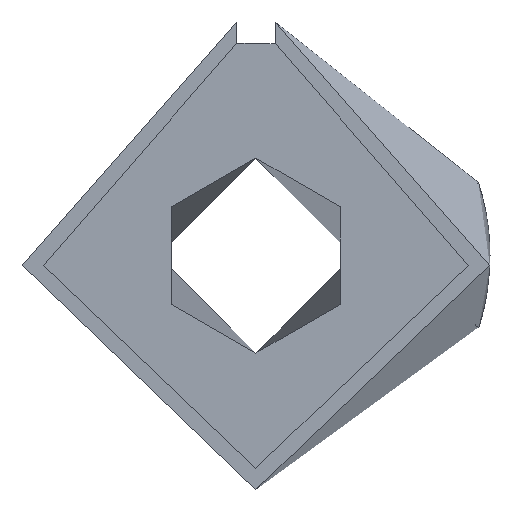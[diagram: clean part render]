
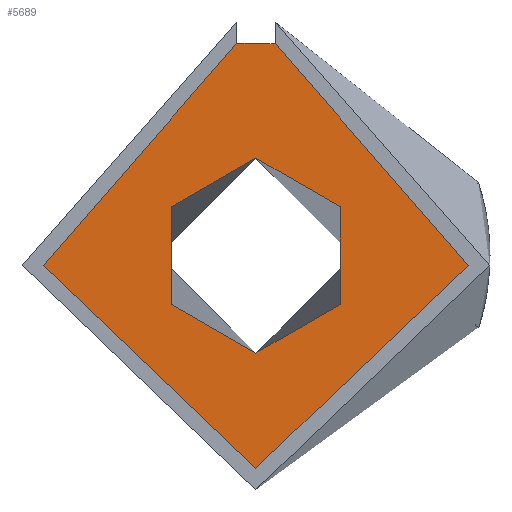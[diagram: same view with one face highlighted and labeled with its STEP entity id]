
A CAD part, left-side view. The second image highlights one B-rep face of the part: STEP entity #5689.
In plain terms, the highlighted planar face has unit normal (-1, 0, 0).
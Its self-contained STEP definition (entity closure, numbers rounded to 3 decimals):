
#128=PLANE('',#6128);
#581=CIRCLE('',#6103,2.5);
#594=CIRCLE('',#6129,5.451);
#595=CIRCLE('',#6130,5.451);
#980=ORIENTED_EDGE('',*,*,#2697,.F.);
#981=ORIENTED_EDGE('',*,*,#2698,.F.);
#982=ORIENTED_EDGE('',*,*,#2662,.T.);
#2662=EDGE_CURVE('',#3527,#3527,#581,.F.);
#2697=EDGE_CURVE('',#3550,#3551,#594,.T.);
#2698=EDGE_CURVE('',#3551,#3550,#595,.T.);
#3527=VERTEX_POINT('',#8753);
#3550=VERTEX_POINT('',#8824);
#3551=VERTEX_POINT('',#8825);
#4889=EDGE_LOOP('',(#980,#981));
#4890=EDGE_LOOP('',(#982));
#5281=FACE_BOUND('',#4889,.T.);
#5282=FACE_BOUND('',#4890,.T.);
#5689=ADVANCED_FACE('',(#5281,#5282),#128,.T.);
#6103=AXIS2_PLACEMENT_3D('',#8752,#6680,#6681);
#6128=AXIS2_PLACEMENT_3D('',#8822,#6752,#6753);
#6129=AXIS2_PLACEMENT_3D('',#8823,#6754,#6755);
#6130=AXIS2_PLACEMENT_3D('',#8826,#6756,#6757);
#6680=DIRECTION('',(-1.,0.,0.));
#6681=DIRECTION('',(0.,0.,1.));
#6752=DIRECTION('',(-1.,0.,0.));
#6753=DIRECTION('',(0.,0.,-1.));
#6754=DIRECTION('',(1.,0.,0.));
#6755=DIRECTION('',(0.,0.,-1.));
#6756=DIRECTION('',(1.,0.,0.));
#6757=DIRECTION('',(0.,0.,-1.));
#8752=CARTESIAN_POINT('',(-10.4,0.,0.));
#8753=CARTESIAN_POINT('',(-10.4,0.,2.5));
#8822=CARTESIAN_POINT('',(-10.4,0.,0.));
#8823=CARTESIAN_POINT('',(-10.4,0.,0.));
#8824=CARTESIAN_POINT('',(-10.4,0.5,5.428));
#8825=CARTESIAN_POINT('',(-10.4,-0.5,5.428));
#8826=CARTESIAN_POINT('',(-10.4,0.,0.));
